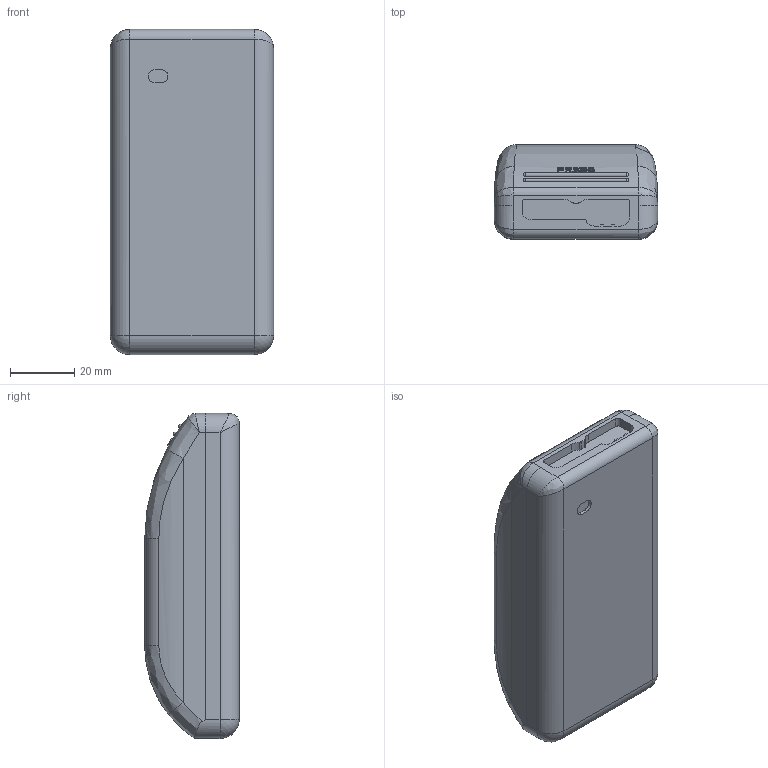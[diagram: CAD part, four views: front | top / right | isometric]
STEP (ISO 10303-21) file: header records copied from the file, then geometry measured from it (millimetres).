
FILE_DESCRIPTION((''),'2;1');
FILE_NAME('09550091Z','2012-10-16T',('emir.oezbadereli'),(''),'PRO/ENGINEER BY PARAMETRIC TECHNOLOGY CORPORATION, 2010480','PRO/ENGINEER BY PARAMETRIC TECHNOLOGY CORPORATION, 2010480','');
FILE_SCHEMA(('AUTOMOTIVE_DESIGN { 1 2 10303 214 0 1 1 1 }'));
Length unit declared in the file: millimetre
Products named in the file (1): 09550091Z
Bounding box: 51 x 29.5 x 101.5 mm (x, y, z)
Volume: 130871.4 mm3; surface area: 16364.3 mm2
Topology: 1 solids, 1 shells, 212 faces, 575 edges, 372 vertices
Faces by surface type: extrusion 93, plane 62, cylinder 37, bspline 14, sphere 6
Entity records: 12083 total; most frequent: CARTESIAN_POINT 3099, ORIENTED_EDGE 1142, PRESENTATION_STYLE_ASSIGNMENT 834, DIRECTION 700, STYLED_ITEM 665, CURVE_STYLE 664, EDGE_CURVE 571, VERTEX_POINT 372
